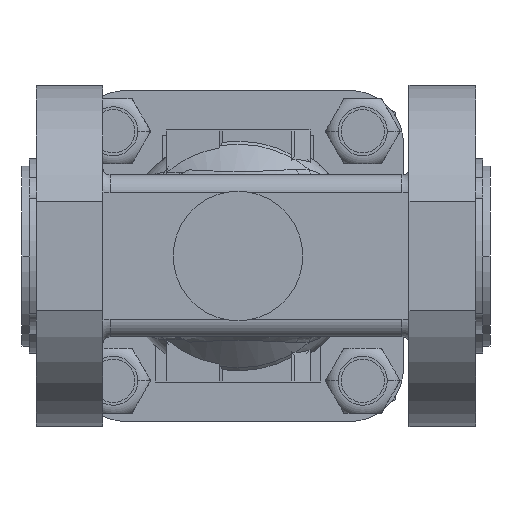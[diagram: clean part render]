
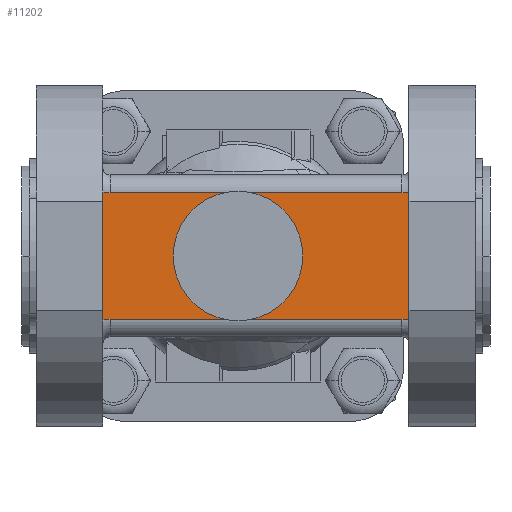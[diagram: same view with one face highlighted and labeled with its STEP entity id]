
A CAD part, front view. The second image highlights one B-rep face of the part: STEP entity #11202.
In plain terms, the highlighted planar face has unit normal (0, -1, 0).
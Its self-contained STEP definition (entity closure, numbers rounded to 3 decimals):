
#2438=DIRECTION('',(0.,0.,1.));
#2439=VECTOR('',#2438,35.584);
#2440=CARTESIAN_POINT('',(47.5,-16.5,-17.792));
#2441=LINE('',#2440,#2439);
#2655=DIRECTION('',(0.,0.,-1.));
#2656=VECTOR('',#2655,35.584);
#2657=CARTESIAN_POINT('',(-37.5,-16.5,17.792));
#2658=LINE('',#2657,#2656);
#2812=DIRECTION('',(-1.,0.,0.));
#2813=VECTOR('',#2812,81.);
#2814=CARTESIAN_POINT('',(45.5,-16.5,-17.5));
#2815=LINE('',#2814,#2813);
#2816=CARTESIAN_POINT('',(-35.5,-16.5,-24.5));
#2817=DIRECTION('',(0.,-1.,0.));
#2818=DIRECTION('',(0.,0.,1.));
#2819=AXIS2_PLACEMENT_3D('',#2816,#2817,#2818);
#2821=CARTESIAN_POINT('',(-35.5,-16.5,24.5));
#2822=DIRECTION('',(0.,-1.,0.));
#2823=DIRECTION('',(-0.286,0.,-0.958));
#2824=AXIS2_PLACEMENT_3D('',#2821,#2822,#2823);
#2826=DIRECTION('',(1.,0.,0.));
#2827=VECTOR('',#2826,81.);
#2828=CARTESIAN_POINT('',(-35.5,-16.5,17.5));
#2829=LINE('',#2828,#2827);
#2830=CARTESIAN_POINT('',(45.5,-16.5,24.5));
#2831=DIRECTION('',(0.,-1.,0.));
#2832=DIRECTION('',(0.,0.,-1.));
#2833=AXIS2_PLACEMENT_3D('',#2830,#2831,#2832);
#2835=CARTESIAN_POINT('',(45.5,-16.5,-24.5));
#2836=DIRECTION('',(0.,-1.,0.));
#2837=DIRECTION('',(0.286,0.,0.958));
#2838=AXIS2_PLACEMENT_3D('',#2835,#2836,#2837);
#2840=CARTESIAN_POINT('',(0.,-16.5,0.));
#2841=DIRECTION('',(0.,-1.,0.));
#2842=DIRECTION('',(-1.,0.,0.));
#2843=AXIS2_PLACEMENT_3D('',#2840,#2841,#2842);
#2845=CARTESIAN_POINT('',(0.,-16.5,0.));
#2846=DIRECTION('',(0.,-1.,0.));
#2847=DIRECTION('',(1.,0.,0.));
#2848=AXIS2_PLACEMENT_3D('',#2845,#2846,#2847);
#3861=CARTESIAN_POINT('',(-37.5,-16.5,17.792));
#7217=CARTESIAN_POINT('',(-16.,-16.5,0.));
#7218=CARTESIAN_POINT('',(16.,-16.5,0.));
#7219=VERTEX_POINT('',#7217);
#7220=VERTEX_POINT('',#7218);
#7662=CARTESIAN_POINT('',(45.5,-16.5,-17.5));
#7663=CARTESIAN_POINT('',(-35.5,-16.5,-17.5));
#7664=VERTEX_POINT('',#7662);
#7665=VERTEX_POINT('',#7663);
#7668=CARTESIAN_POINT('',(47.5,-16.5,-17.792));
#7669=VERTEX_POINT('',#7668);
#7676=CARTESIAN_POINT('',(47.5,-16.5,17.792));
#7677=VERTEX_POINT('',#7676);
#7680=VERTEX_POINT('',#3861);
#7682=CARTESIAN_POINT('',(45.5,-16.5,17.5));
#7683=VERTEX_POINT('',#7682);
#7684=CARTESIAN_POINT('',(-35.5,-16.5,17.5));
#7685=VERTEX_POINT('',#7684);
#7686=CARTESIAN_POINT('',(-37.5,-16.5,-17.792));
#7687=VERTEX_POINT('',#7686);
#11175=CARTESIAN_POINT('',(-37.5,-16.5,-22.5));
#11176=DIRECTION('',(0.,-1.,0.));
#11177=DIRECTION('',(1.,0.,0.));
#11178=AXIS2_PLACEMENT_3D('',#11175,#11176,#11177);
#11179=PLANE('',#11178);
#11181=ORIENTED_EDGE('',*,*,#11180,.T.);
#11183=ORIENTED_EDGE('',*,*,#11182,.T.);
#11184=ORIENTED_EDGE('',*,*,#11102,.F.);
#11186=ORIENTED_EDGE('',*,*,#11185,.T.);
#11188=ORIENTED_EDGE('',*,*,#11187,.T.);
#11190=ORIENTED_EDGE('',*,*,#11189,.T.);
#11191=ORIENTED_EDGE('',*,*,#10914,.F.);
#11193=ORIENTED_EDGE('',*,*,#11192,.T.);
#11194=EDGE_LOOP('',(#11181,#11183,#11184,#11186,#11188,#11190,#11191,#11193));
#11195=FACE_OUTER_BOUND('',#11194,.F.);
#11197=ORIENTED_EDGE('',*,*,#11196,.T.);
#11199=ORIENTED_EDGE('',*,*,#11198,.T.);
#11200=EDGE_LOOP('',(#11197,#11199));
#11201=FACE_BOUND('',#11200,.F.);
#11202=ADVANCED_FACE('',(#11195,#11201),#11179,.T.);
#2820=CIRCLE('',#2819,7.);
#2825=CIRCLE('',#2824,7.);
#2834=CIRCLE('',#2833,7.);
#2839=CIRCLE('',#2838,7.);
#2844=CIRCLE('',#2843,16.);
#2849=CIRCLE('',#2848,16.);
#10914=EDGE_CURVE('',#7669,#7677,#2441,.T.);
#11102=EDGE_CURVE('',#7680,#7687,#2658,.T.);
#11180=EDGE_CURVE('',#7664,#7665,#2815,.T.);
#11182=EDGE_CURVE('',#7665,#7687,#2820,.T.);
#11185=EDGE_CURVE('',#7680,#7685,#2825,.T.);
#11187=EDGE_CURVE('',#7685,#7683,#2829,.T.);
#11189=EDGE_CURVE('',#7683,#7677,#2834,.T.);
#11192=EDGE_CURVE('',#7669,#7664,#2839,.T.);
#11196=EDGE_CURVE('',#7219,#7220,#2844,.T.);
#11198=EDGE_CURVE('',#7220,#7219,#2849,.T.);
